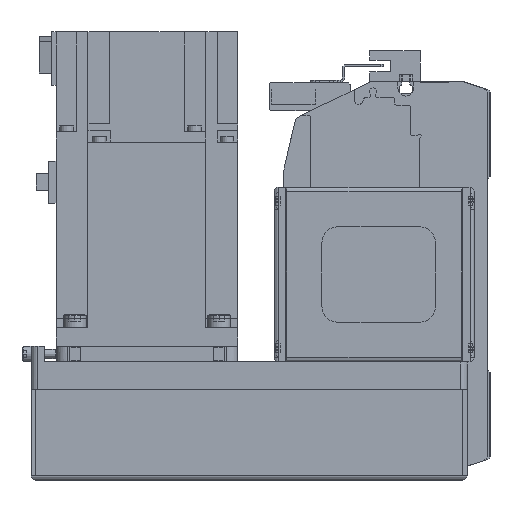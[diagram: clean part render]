
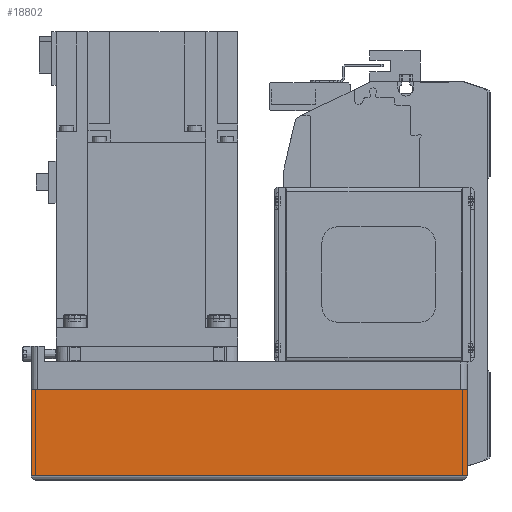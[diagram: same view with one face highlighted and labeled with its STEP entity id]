
A CAD part, left-side view. The second image highlights one B-rep face of the part: STEP entity #18802.
In plain terms, the highlighted planar face has unit normal (-1, 0, 0) as drawn and (0, -1, 0) by its records, which use the part's own axes.
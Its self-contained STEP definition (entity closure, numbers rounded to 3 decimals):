
#2928=ORIENTED_EDGE('',*,*,#7585,.F.);
#2929=ORIENTED_EDGE('',*,*,#7569,.F.);
#2930=ORIENTED_EDGE('',*,*,#7562,.T.);
#2931=ORIENTED_EDGE('',*,*,#7632,.T.);
#7562=EDGE_CURVE('',#10065,#10064,#11992,.T.);
#7569=EDGE_CURVE('',#10065,#10071,#11999,.T.);
#7585=EDGE_CURVE('',#10071,#10085,#12015,.T.);
#7632=EDGE_CURVE('',#10064,#10085,#12036,.T.);
#10064=VERTEX_POINT('',#28849);
#10065=VERTEX_POINT('',#28851);
#10071=VERTEX_POINT('',#28866);
#10085=VERTEX_POINT('',#28899);
#11992=LINE('',#28850,#13678);
#11999=LINE('',#28865,#13685);
#12015=LINE('',#28898,#13701);
#12036=LINE('',#28979,#13722);
#13678=VECTOR('',#23080,1000.);
#13685=VECTOR('',#23091,1000.);
#13701=VECTOR('',#23113,1000.);
#13722=VECTOR('',#23222,1000.);
#15226=EDGE_LOOP('',(#2928,#2929,#2930,#2931));
#16718=FACE_BOUND('',#15226,.T.);
#18041=PLANE('',#20161);
#18802=ADVANCED_FACE('',(#16718),#18041,.T.);
#20161=AXIS2_PLACEMENT_3D('',#28980,#23223,#23224);
#23080=DIRECTION('',(0.,0.,-1.));
#23091=DIRECTION('',(1.,0.,0.));
#23113=DIRECTION('',(0.,0.,-1.));
#23222=DIRECTION('',(1.,0.,0.));
#23223=DIRECTION('',(0.,-1.,0.));
#23224=DIRECTION('',(0.,0.,-1.));
#28849=CARTESIAN_POINT('',(-192.,-40.,-50.));
#28850=CARTESIAN_POINT('',(-192.,-40.,-12.1));
#28851=CARTESIAN_POINT('',(-192.,-40.,-12.1));
#28865=CARTESIAN_POINT('',(-192.,-40.,-12.1));
#28866=CARTESIAN_POINT('',(0.,-40.,-12.1));
#28898=CARTESIAN_POINT('',(0.,-40.,-12.1));
#28899=CARTESIAN_POINT('',(0.,-40.,-50.));
#28979=CARTESIAN_POINT('',(-192.,-40.,-50.));
#28980=CARTESIAN_POINT('',(-192.,-40.,-12.1));
